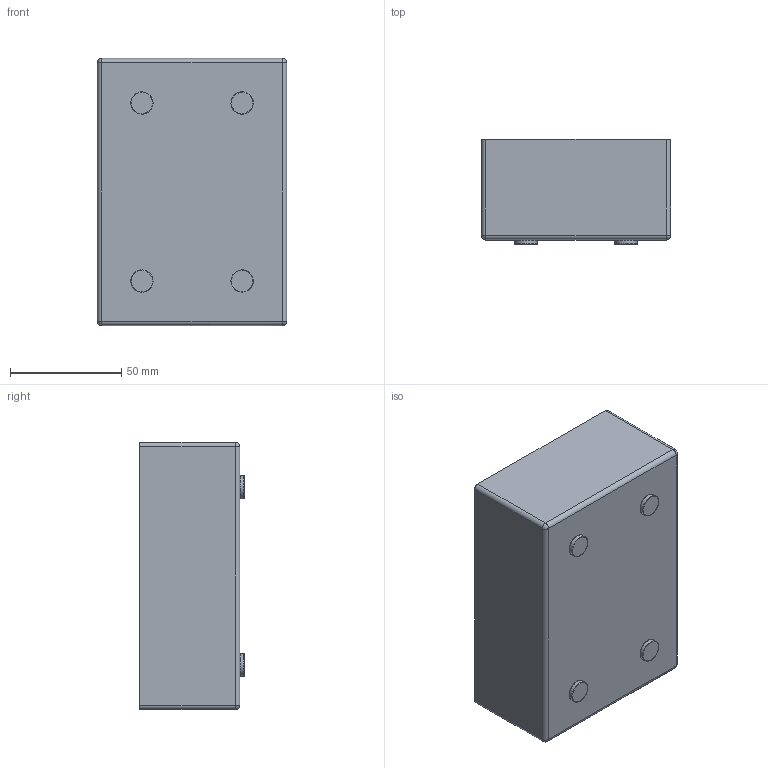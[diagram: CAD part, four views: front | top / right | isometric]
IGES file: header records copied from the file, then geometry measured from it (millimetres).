
Global section: file name: Mydelniczka wolnostojąca,; native system: Autodesk Inventor 2018; preprocessor: unknown; author: Verical; date: 20201229.160559; units: millimetre
Bounding box: 85 x 47 x 120 mm (x, y, z)
Volume: 40371.3 mm3; surface area: 80830.5 mm2
Topology: 1 solids, 1 shells, 86 faces, 235 edges, 156 vertices
Faces by surface type: bspline 86
